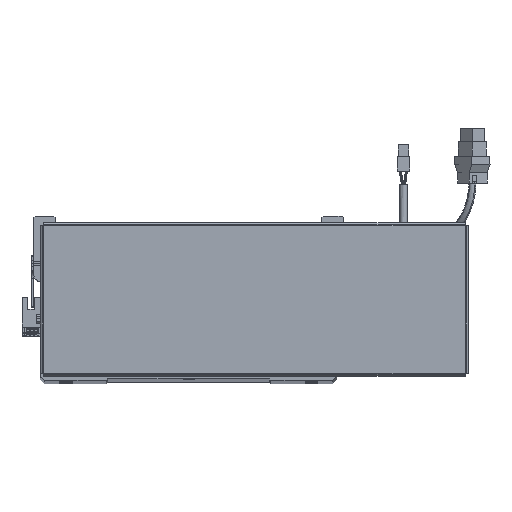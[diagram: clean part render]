
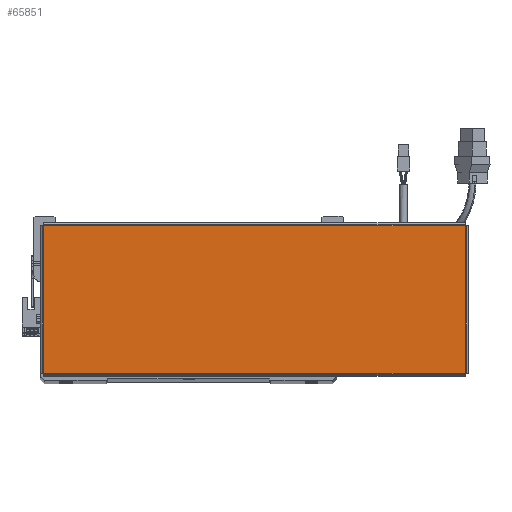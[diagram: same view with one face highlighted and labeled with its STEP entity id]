
A CAD part, top view. The second image highlights one B-rep face of the part: STEP entity #65851.
In plain terms, the highlighted planar face has unit normal (0, 0, 1).
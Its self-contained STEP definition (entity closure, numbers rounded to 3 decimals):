
#1039 = ORIENTED_EDGE ( 'NONE', *, *, #55029, .T. ) ;
#4180 = PLANE ( 'NONE',  #31658 ) ;
#4565 = DIRECTION ( 'NONE',  ( 0., -1., 0. ) ) ;
#4903 = EDGE_CURVE ( 'NONE', #14072, #24424, #43590, .T. ) ;
#7610 = VECTOR ( 'NONE', #4565, 1000. ) ;
#9499 = CARTESIAN_POINT ( 'NONE',  ( 156.513, 54.763, 0. ) ) ;
#9756 = LINE ( 'NONE', #43525, #22923 ) ;
#11245 = EDGE_LOOP ( 'NONE', ( #1039, #36728, #35358, #60641 ) ) ;
#14072 = VERTEX_POINT ( 'NONE', #43097 ) ;
#15197 = CARTESIAN_POINT ( 'NONE',  ( 0., 0., 0. ) ) ;
#19068 = CARTESIAN_POINT ( 'NONE',  ( 156.513, -54.793, 0. ) ) ;
#21638 = VECTOR ( 'NONE', #29907, 1000. ) ;
#22923 = VECTOR ( 'NONE', #49433, 1000. ) ;
#24424 = VERTEX_POINT ( 'NONE', #29523 ) ;
#29523 = CARTESIAN_POINT ( 'NONE',  ( -156.513, -54.763, 0. ) ) ;
#29907 = DIRECTION ( 'NONE',  ( -1., 0., 0. ) ) ;
#31658 = AXIS2_PLACEMENT_3D ( 'NONE', #15197, #31893, #71240 ) ;
#31893 = DIRECTION ( 'NONE',  ( 0., 0., 1. ) ) ;
#32542 = CARTESIAN_POINT ( 'NONE',  ( -156.513, 54.793, 0. ) ) ;
#33745 = FACE_OUTER_BOUND ( 'NONE', #11245, .T. ) ;
#35358 = ORIENTED_EDGE ( 'NONE', *, *, #58424, .T. ) ;
#36728 = ORIENTED_EDGE ( 'NONE', *, *, #46552, .T. ) ;
#40943 = LINE ( 'NONE', #64280, #21638 ) ;
#43097 = CARTESIAN_POINT ( 'NONE',  ( -156.513, 54.763, 0. ) ) ;
#43525 = CARTESIAN_POINT ( 'NONE',  ( -156.543, -54.763, 0. ) ) ;
#43590 = LINE ( 'NONE', #32542, #7610 ) ;
#46552 = EDGE_CURVE ( 'NONE', #46811, #64359, #67812, .T. ) ;
#46811 = VERTEX_POINT ( 'NONE', #56160 ) ;
#48532 = DIRECTION ( 'NONE',  ( 0., 1., 0. ) ) ;
#49299 = VECTOR ( 'NONE', #48532, 1000. ) ;
#49433 = DIRECTION ( 'NONE',  ( 1., 0., 0. ) ) ;
#55029 = EDGE_CURVE ( 'NONE', #24424, #46811, #9756, .T. ) ;
#56160 = CARTESIAN_POINT ( 'NONE',  ( 156.513, -54.763, 0. ) ) ;
#58424 = EDGE_CURVE ( 'NONE', #64359, #14072, #40943, .T. ) ;
#60641 = ORIENTED_EDGE ( 'NONE', *, *, #4903, .T. ) ;
#64280 = CARTESIAN_POINT ( 'NONE',  ( 156.543, 54.763, 0. ) ) ;
#64359 = VERTEX_POINT ( 'NONE', #9499 ) ;
#65851 = ADVANCED_FACE ( 'NONE', ( #33745 ), #4180, .T. ) ;
#67812 = LINE ( 'NONE', #19068, #49299 ) ;
#71240 = DIRECTION ( 'NONE',  ( 1., 0., 0. ) ) ;
